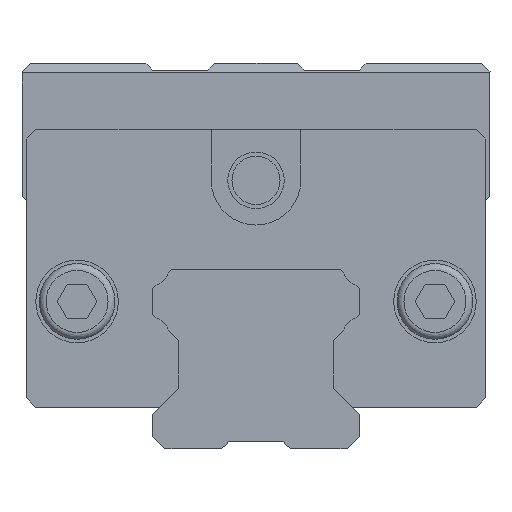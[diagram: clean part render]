
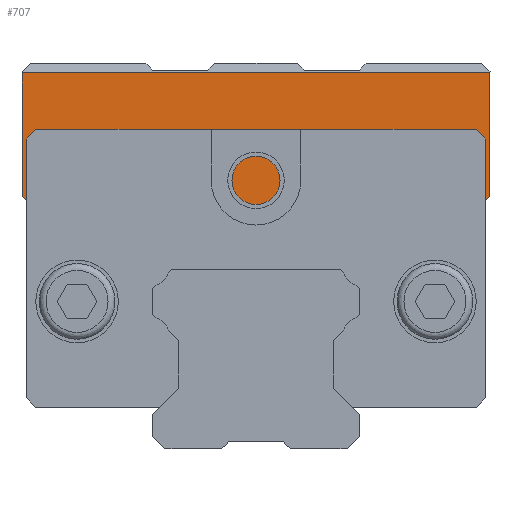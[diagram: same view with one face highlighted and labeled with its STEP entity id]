
A CAD part, front view. The second image highlights one B-rep face of the part: STEP entity #707.
In plain terms, the highlighted planar face has unit normal (0, -1, 0).
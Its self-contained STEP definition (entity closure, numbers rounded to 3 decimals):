
#707 = ADVANCED_FACE( '', ( #1520 ), #1521, .F. );
#1520 = FACE_OUTER_BOUND( '', #2336, .T. );
#1521 = PLANE( '', #2337 );
#2336 = EDGE_LOOP( '', ( #3910, #3911, #3912, #3913, #3914, #3915, #3916, #3917, #3918, #3919, #3920, #3921, #3922, #3923, #3924, #3925, #3926, #3927, #3928, #3929, #3930, #3931 ) );
#2337 = AXIS2_PLACEMENT_3D( '', #3932, #3933, #3934 );
#3910 = ORIENTED_EDGE( '', *, *, #5762, .T. );
#3911 = ORIENTED_EDGE( '', *, *, #5929, .T. );
#3912 = ORIENTED_EDGE( '', *, *, #6008, .T. );
#3913 = ORIENTED_EDGE( '', *, *, #6016, .T. );
#3914 = ORIENTED_EDGE( '', *, *, #6017, .T. );
#3915 = ORIENTED_EDGE( '', *, *, #6001, .T. );
#3916 = ORIENTED_EDGE( '', *, *, #5999, .T. );
#3917 = ORIENTED_EDGE( '', *, *, #5893, .T. );
#3918 = ORIENTED_EDGE( '', *, *, #5888, .T. );
#3919 = ORIENTED_EDGE( '', *, *, #5896, .T. );
#3920 = ORIENTED_EDGE( '', *, *, #5832, .T. );
#3921 = ORIENTED_EDGE( '', *, *, #5829, .T. );
#3922 = ORIENTED_EDGE( '', *, *, #5952, .T. );
#3923 = ORIENTED_EDGE( '', *, *, #5946, .T. );
#3924 = ORIENTED_EDGE( '', *, *, #5950, .T. );
#3925 = ORIENTED_EDGE( '', *, *, #6006, .T. );
#3926 = ORIENTED_EDGE( '', *, *, #6013, .T. );
#3927 = ORIENTED_EDGE( '', *, *, #6010, .T. );
#3928 = ORIENTED_EDGE( '', *, *, #6012, .T. );
#3929 = ORIENTED_EDGE( '', *, *, #5993, .T. );
#3930 = ORIENTED_EDGE( '', *, *, #5989, .T. );
#3931 = ORIENTED_EDGE( '', *, *, #5980, .T. );
#3932 = CARTESIAN_POINT( '', ( -11.278, -22.6, 10.7 ) );
#3933 = DIRECTION( '', ( 0., 1., 0. ) );
#3934 = DIRECTION( '', ( 1., 0., 0. ) );
#5762 = EDGE_CURVE( '', #6651, #6649, #6652, .T. );
#5829 = EDGE_CURVE( '', #6777, #6775, #6778, .T. );
#5832 = EDGE_CURVE( '', #6782, #6777, #6783, .T. );
#5888 = EDGE_CURVE( '', #6879, #6877, #6880, .T. );
#5893 = EDGE_CURVE( '', #6886, #6879, #6887, .T. );
#5896 = EDGE_CURVE( '', #6877, #6782, #6890, .T. );
#5929 = EDGE_CURVE( '', #6649, #6942, #6944, .T. );
#5946 = EDGE_CURVE( '', #6968, #6966, #6969, .T. );
#5950 = EDGE_CURVE( '', #6966, #6973, #6975, .T. );
#5952 = EDGE_CURVE( '', #6775, #6968, #6977, .T. );
#5980 = EDGE_CURVE( '', #7020, #6651, #7021, .T. );
#5989 = EDGE_CURVE( '', #7034, #7020, #7035, .T. );
#5993 = EDGE_CURVE( '', #7040, #7034, #7041, .T. );
#5999 = EDGE_CURVE( '', #7048, #6886, #7049, .T. );
#6001 = EDGE_CURVE( '', #7051, #7048, #7052, .T. );
#6006 = EDGE_CURVE( '', #6973, #7056, #7058, .T. );
#6008 = EDGE_CURVE( '', #6942, #7059, #7061, .T. );
#6010 = EDGE_CURVE( '', #7064, #7062, #7065, .T. );
#6012 = EDGE_CURVE( '', #7062, #7040, #7067, .T. );
#6013 = EDGE_CURVE( '', #7056, #7064, #7068, .T. );
#6016 = EDGE_CURVE( '', #7059, #7071, #7072, .T. );
#6017 = EDGE_CURVE( '', #7071, #7051, #7073, .T. );
#6649 = VERTEX_POINT( '', #7816 );
#6651 = VERTEX_POINT( '', #7819 );
#6652 = LINE( '', #7820, #7821 );
#6775 = VERTEX_POINT( '', #8164 );
#6777 = VERTEX_POINT( '', #8167 );
#6778 = LINE( '', #8168, #8169 );
#6782 = VERTEX_POINT( '', #8175 );
#6783 = LINE( '', #8176, #8177 );
#6877 = VERTEX_POINT( '', #8402 );
#6879 = VERTEX_POINT( '', #8405 );
#6880 = LINE( '', #8406, #8407 );
#6886 = VERTEX_POINT( '', #8415 );
#6887 = LINE( '', #8416, #8417 );
#6890 = LINE( '', #8422, #8423 );
#6942 = VERTEX_POINT( '', #8554 );
#6944 = LINE( '', #8557, #8558 );
#6966 = VERTEX_POINT( '', #8619 );
#6968 = VERTEX_POINT( '', #8622 );
#6969 = LINE( '', #8623, #8624 );
#6973 = VERTEX_POINT( '', #8630 );
#6975 = LINE( '', #8633, #8634 );
#6977 = LINE( '', #8637, #8638 );
#7020 = VERTEX_POINT( '', #8705 );
#7021 = LINE( '', #8706, #8707 );
#7034 = VERTEX_POINT( '', #8778 );
#7035 = LINE( '', #8779, #8780 );
#7040 = VERTEX_POINT( '', #8787 );
#7041 = LINE( '', #8788, #8789 );
#7048 = VERTEX_POINT( '', #8809 );
#7049 = LINE( '', #8810, #8811 );
#7051 = VERTEX_POINT( '', #8814 );
#7052 = LINE( '', #8815, #8816 );
#7056 = VERTEX_POINT( '', #8823 );
#7058 = LINE( '', #8826, #8827 );
#7059 = VERTEX_POINT( '', #8828 );
#7061 = LINE( '', #8831, #8832 );
#7062 = VERTEX_POINT( '', #8833 );
#7064 = VERTEX_POINT( '', #8836 );
#7065 = LINE( '', #8837, #8838 );
#7067 = LINE( '', #8841, #8842 );
#7068 = LINE( '', #8843, #8844 );
#7071 = VERTEX_POINT( '', #8849 );
#7072 = LINE( '', #8850, #8851 );
#7073 = LINE( '', #8852, #8853 );
#7816 = CARTESIAN_POINT( '', ( 17., -22.6, 27.3 ) );
#7819 = CARTESIAN_POINT( '', ( 17., -22.6, 18.3 ) );
#7820 = CARTESIAN_POINT( '', ( 17., -22.6, 18.3 ) );
#7821 = VECTOR( '', #9958, 1000. );
#8164 = CARTESIAN_POINT( '', ( -6.978, -22.6, 15. ) );
#8167 = CARTESIAN_POINT( '', ( -9.5, -22.6, 12.478 ) );
#8168 = CARTESIAN_POINT( '', ( -9.5, -22.6, 12.478 ) );
#8169 = VECTOR( '', #10013, 1000. );
#8175 = CARTESIAN_POINT( '', ( -9.5, -22.6, 8.922 ) );
#8176 = CARTESIAN_POINT( '', ( -9.5, -22.6, 8.922 ) );
#8177 = VECTOR( '', #10016, 1000. );
#8402 = CARTESIAN_POINT( '', ( -7.6, -22.6, 7.022 ) );
#8405 = CARTESIAN_POINT( '', ( -7.6, -22.6, 5. ) );
#8406 = CARTESIAN_POINT( '', ( -7.6, -22.6, 7.022 ) );
#8407 = VECTOR( '', #10069, 1000. );
#8415 = CARTESIAN_POINT( '', ( -9.6, -22.6, 3. ) );
#8416 = CARTESIAN_POINT( '', ( -7.6, -22.6, 5. ) );
#8417 = VECTOR( '', #10075, 1000. );
#8422 = CARTESIAN_POINT( '', ( -9.5, -22.6, 8.922 ) );
#8423 = VECTOR( '', #10078, 1000. );
#8554 = CARTESIAN_POINT( '', ( -17., -22.6, 27.3 ) );
#8557 = CARTESIAN_POINT( '', ( -11.278, -22.6, 27.3 ) );
#8558 = VECTOR( '', #10109, 1000. );
#8619 = CARTESIAN_POINT( '', ( 9.5, -22.6, 12.478 ) );
#8622 = CARTESIAN_POINT( '', ( 6.978, -22.6, 15. ) );
#8623 = CARTESIAN_POINT( '', ( 9.5, -22.6, 12.478 ) );
#8624 = VECTOR( '', #10124, 1000. );
#8630 = CARTESIAN_POINT( '', ( 9.5, -22.6, 8.922 ) );
#8633 = CARTESIAN_POINT( '', ( 9.5, -22.6, 8.922 ) );
#8634 = VECTOR( '', #10128, 1000. );
#8637 = CARTESIAN_POINT( '', ( -6.978, -22.6, 15. ) );
#8638 = VECTOR( '', #10130, 1000. );
#8705 = CARTESIAN_POINT( '', ( 16.7, -22.6, 18. ) );
#8706 = CARTESIAN_POINT( '', ( 16.7, -22.6, 18. ) );
#8707 = VECTOR( '', #10158, 1000. );
#8778 = CARTESIAN_POINT( '', ( 16.7, -22.6, 3.7 ) );
#8779 = CARTESIAN_POINT( '', ( 16.7, -22.6, 3.7 ) );
#8780 = VECTOR( '', #10164, 1000. );
#8787 = CARTESIAN_POINT( '', ( 16., -22.6, 3. ) );
#8788 = CARTESIAN_POINT( '', ( 16.7, -22.6, 3.7 ) );
#8789 = VECTOR( '', #10170, 1000. );
#8809 = CARTESIAN_POINT( '', ( -16., -22.6, 3. ) );
#8810 = CARTESIAN_POINT( '', ( -9.6, -22.6, 3. ) );
#8811 = VECTOR( '', #10175, 1000. );
#8814 = CARTESIAN_POINT( '', ( -16.7, -22.6, 3.7 ) );
#8815 = CARTESIAN_POINT( '', ( -16.7, -22.6, 3.7 ) );
#8816 = VECTOR( '', #10177, 1000. );
#8823 = CARTESIAN_POINT( '', ( 7.6, -22.6, 7.022 ) );
#8826 = CARTESIAN_POINT( '', ( 9.5, -22.6, 8.922 ) );
#8827 = VECTOR( '', #10182, 1000. );
#8828 = CARTESIAN_POINT( '', ( -17., -22.6, 18.3 ) );
#8831 = CARTESIAN_POINT( '', ( -17., -22.6, 18.3 ) );
#8832 = VECTOR( '', #10184, 1000. );
#8833 = CARTESIAN_POINT( '', ( 9.6, -22.6, 3. ) );
#8836 = CARTESIAN_POINT( '', ( 7.6, -22.6, 5. ) );
#8837 = CARTESIAN_POINT( '', ( 9.6, -22.6, 3. ) );
#8838 = VECTOR( '', #10186, 1000. );
#8841 = CARTESIAN_POINT( '', ( 9.6, -22.6, 3. ) );
#8842 = VECTOR( '', #10188, 1000. );
#8843 = CARTESIAN_POINT( '', ( 7.6, -22.6, 7.022 ) );
#8844 = VECTOR( '', #10189, 1000. );
#8849 = CARTESIAN_POINT( '', ( -16.7, -22.6, 18. ) );
#8850 = CARTESIAN_POINT( '', ( -16.7, -22.6, 18. ) );
#8851 = VECTOR( '', #10192, 1000. );
#8852 = CARTESIAN_POINT( '', ( -16.7, -22.6, 3.7 ) );
#8853 = VECTOR( '', #10193, 1000. );
#9958 = DIRECTION( '', ( 0., 0., 1. ) );
#10013 = DIRECTION( '', ( 0.707, 0., 0.707 ) );
#10016 = DIRECTION( '', ( 0., 0., 1. ) );
#10069 = DIRECTION( '', ( 0., 0., 1. ) );
#10075 = DIRECTION( '', ( 0.707, 0., 0.707 ) );
#10078 = DIRECTION( '', ( -0.707, 0., 0.707 ) );
#10109 = DIRECTION( '', ( -1., 0., 0. ) );
#10124 = DIRECTION( '', ( 0.707, 0., -0.707 ) );
#10128 = DIRECTION( '', ( 0., 0., -1. ) );
#10130 = DIRECTION( '', ( 1., 0., 0. ) );
#10158 = DIRECTION( '', ( 0.707, 0., 0.707 ) );
#10164 = DIRECTION( '', ( 0., 0., 1. ) );
#10170 = DIRECTION( '', ( 0.707, 0., 0.707 ) );
#10175 = DIRECTION( '', ( 1., 0., 0. ) );
#10177 = DIRECTION( '', ( 0.707, 0., -0.707 ) );
#10182 = DIRECTION( '', ( -0.707, 0., -0.707 ) );
#10184 = DIRECTION( '', ( 0., 0., -1. ) );
#10186 = DIRECTION( '', ( 0.707, 0., -0.707 ) );
#10188 = DIRECTION( '', ( 1., 0., 0. ) );
#10189 = DIRECTION( '', ( 0., 0., -1. ) );
#10192 = DIRECTION( '', ( 0.707, 0., -0.707 ) );
#10193 = DIRECTION( '', ( 0., 0., -1. ) );
